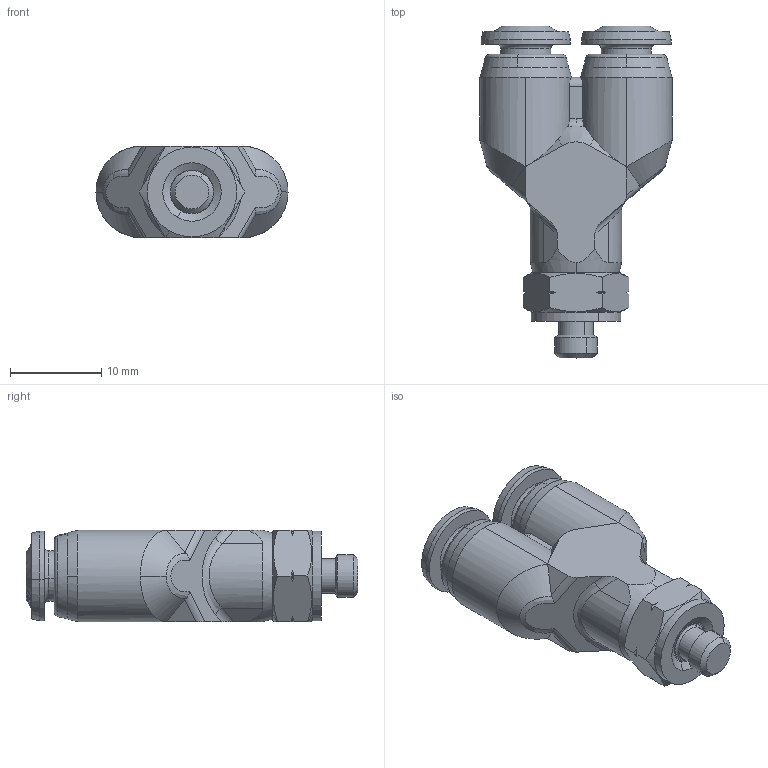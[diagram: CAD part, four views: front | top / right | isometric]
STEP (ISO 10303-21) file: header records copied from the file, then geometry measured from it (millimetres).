
FILE_DESCRIPTION (( 'STEP AP203' ), '1' );
FILE_NAME ('8532500001A.step', '2012-11-06T10:29:43', ( '' ), ( '' ), 'SwSTEP 2.0', 'SolidWorks 2012', '' );
FILE_SCHEMA (( 'CONFIG_CONTROL_DESIGN' ));
Length unit declared in the file: millimetre
Products named in the file (1): 8532500001A
Bounding box: 21 x 36.3 x 10 mm (x, y, z)
Volume: 3933.1 mm3; surface area: 1996.9 mm2
Topology: 1 solids, 1 shells, 372 faces, 981 edges, 644 vertices
Faces by surface type: bspline 216, cone 74, plane 35, cylinder 32, torus 15
Entity records: 21030 total; most frequent: CARTESIAN_POINT 13795, ORIENTED_EDGE 1962, EDGE_CURVE 981, B_SPLINE_CURVE_WITH_KNOTS 726, DIRECTION 668, VERTEX_POINT 644, EDGE_LOOP 405, ADVANCED_FACE 372
